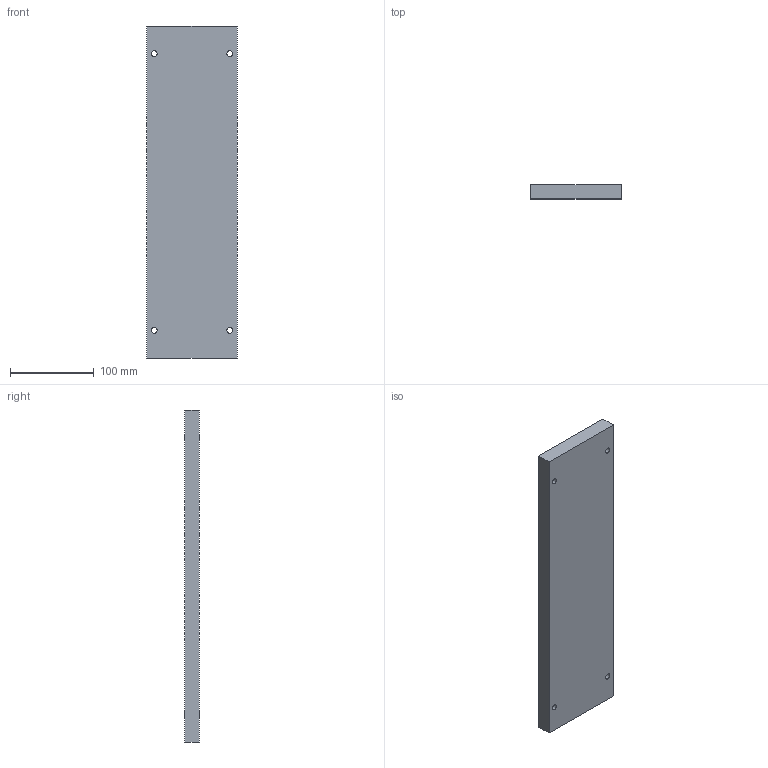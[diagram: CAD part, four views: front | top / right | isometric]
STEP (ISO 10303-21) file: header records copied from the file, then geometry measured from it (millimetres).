
FILE_DESCRIPTION (( 'STEP AP214' ), '1' );
FILE_NAME ('L55_196x396x17 .STEP', '2018-10-08T17:19:04', ( '' ), ( '' ), 'SwSTEP 2.0', 'SolidWorks 2014', '' );
FILE_SCHEMA (( 'AUTOMOTIVE_DESIGN' ));
Length unit declared in the file: millimetre
Products named in the file (1): L55_196x396x17 
Bounding box: 108 x 17 x 396 mm (x, y, z)
Volume: 724586.5 mm3; surface area: 103834.1 mm2
Topology: 1 solids, 1 shells, 14 faces, 36 edges, 24 vertices
Faces by surface type: cylinder 8, plane 6
Entity records: 574 total; most frequent: DIRECTION 82, CARTESIAN_POINT 75, ORIENTED_EDGE 72, EDGE_CURVE 36, AXIS2_PLACEMENT_3D 31, VERTEX_POINT 24, EDGE_LOOP 22, LINE 20
